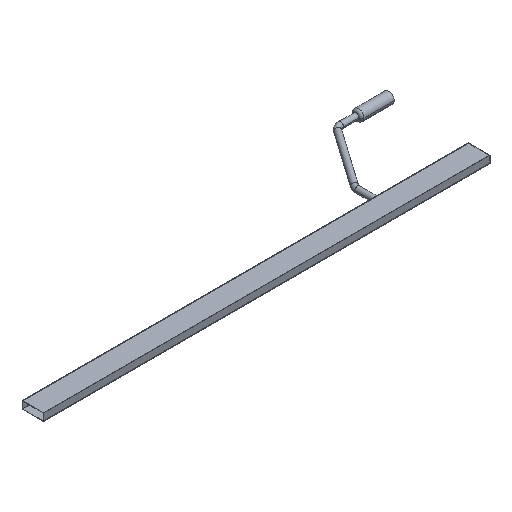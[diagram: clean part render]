
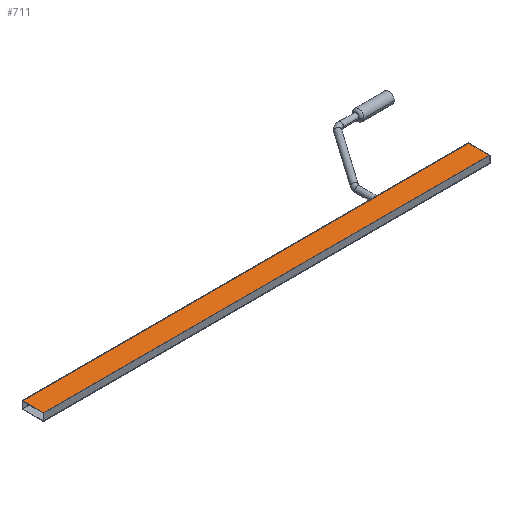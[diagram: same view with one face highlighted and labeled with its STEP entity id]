
A CAD part, isometric view. The second image highlights one B-rep face of the part: STEP entity #711.
In plain terms, the highlighted planar face has unit normal (0, 0, 1).
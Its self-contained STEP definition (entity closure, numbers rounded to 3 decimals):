
#5 = VERTEX_POINT ( 'NONE', #35 ) ;
#8 = VERTEX_POINT ( 'NONE', #305 ) ;
#10 = VERTEX_POINT ( 'NONE', #307 ) ;
#14 = VERTEX_POINT ( 'NONE', #41 ) ;
#35 = CARTESIAN_POINT ( 'NONE',  ( -489.853, -30., 5.25 ) ) ;
#41 = CARTESIAN_POINT ( 'NONE',  ( 127.247, -30., 5.25 ) ) ;
#142 = CARTESIAN_POINT ( 'NONE',  ( -489.853, -30., 5.25 ) ) ;
#148 = DIRECTION ( 'NONE',  ( 1., 0., 0. ) ) ;
#202 = CARTESIAN_POINT ( 'NONE',  ( -489.853, -30., 5.25 ) ) ;
#203 = DIRECTION ( 'NONE',  ( 0., -1., 0. ) ) ;
#217 = CARTESIAN_POINT ( 'NONE',  ( 127.247, -30., 5.25 ) ) ;
#218 = DIRECTION ( 'NONE',  ( 0., -1., 0. ) ) ;
#228 = CARTESIAN_POINT ( 'NONE',  ( -489.853, 0., 5.25 ) ) ;
#229 = DIRECTION ( 'NONE',  ( 1., 0., 0. ) ) ;
#239 = PLANE ( 'NONE',  #705 ) ;
#244 = CARTESIAN_POINT ( 'NONE',  ( -489.853, -30., 5.25 ) ) ;
#249 = DIRECTION ( 'NONE',  ( 0., 0., 1. ) ) ;
#250 = DIRECTION ( 'NONE',  ( 0., -1., 0. ) ) ;
#305 = CARTESIAN_POINT ( 'NONE',  ( 127.247, 0., 5.25 ) ) ;
#307 = CARTESIAN_POINT ( 'NONE',  ( -489.853, 0., 5.25 ) ) ;
#339 = EDGE_LOOP ( 'NONE', ( #424, #425, #426, #427 ) ) ;
#424 = ORIENTED_EDGE ( 'NONE', *, *, #688, .F. ) ;
#425 = ORIENTED_EDGE ( 'NONE', *, *, #699, .F. ) ;
#426 = ORIENTED_EDGE ( 'NONE', *, *, #679, .T. ) ;
#427 = ORIENTED_EDGE ( 'NONE', *, *, #637, .T. ) ;
#497 = VECTOR ( 'NONE', #148, 1000. ) ;
#513 = LINE ( 'NONE', #142, #497 ) ;
#541 = LINE ( 'NONE', #217, #562 ) ;
#558 = LINE ( 'NONE', #202, #559 ) ;
#559 = VECTOR ( 'NONE', #203, 1000. ) ;
#562 = VECTOR ( 'NONE', #218, 1000. ) ;
#572 = LINE ( 'NONE', #228, #573 ) ;
#573 = VECTOR ( 'NONE', #229, 1000. ) ;
#582 = FACE_OUTER_BOUND ( 'NONE', #339, .T. ) ;
#637 = EDGE_CURVE ( 'NONE', #5, #14, #513, .T. ) ;
#679 = EDGE_CURVE ( 'NONE', #10, #5, #558, .T. ) ;
#688 = EDGE_CURVE ( 'NONE', #8, #14, #541, .T. ) ;
#699 = EDGE_CURVE ( 'NONE', #10, #8, #572, .T. ) ;
#705 = AXIS2_PLACEMENT_3D ( 'NONE', #244, #249, #250 ) ;
#711 = ADVANCED_FACE ( 'NONE', ( #582 ), #239, .T. ) ;
